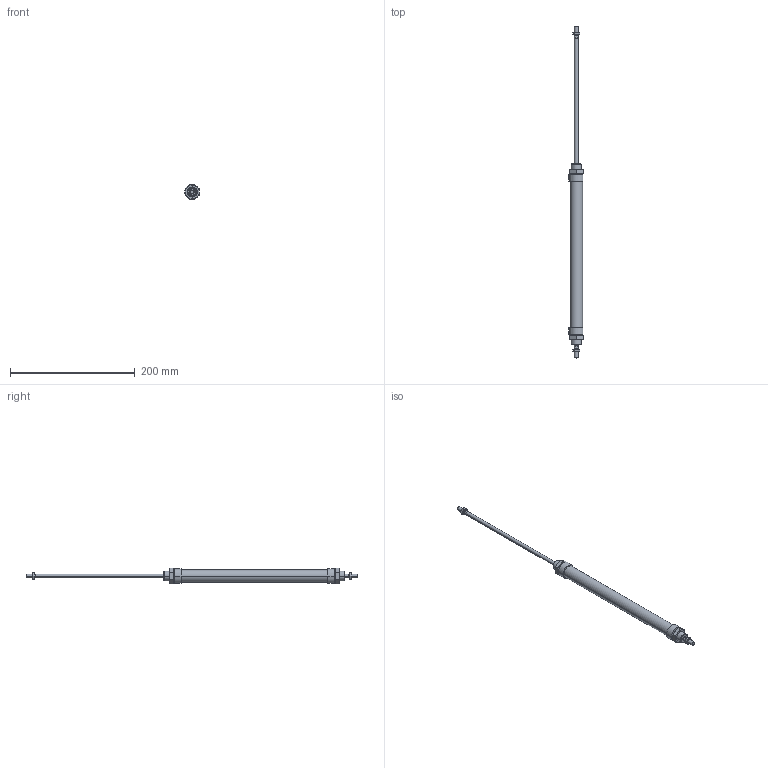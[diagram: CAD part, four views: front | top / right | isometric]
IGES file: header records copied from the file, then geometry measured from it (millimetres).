
Global section: file name: No Iges File Name specified; native system: AutoDesk Inventor R6.0; preprocessor: AutoDesk Inventor Iges Exporter R6.0; author: No Author specified; organization: No Organization specified; date: 20030403.072221; units: millimetre
Bounding box: 23 x 532 x 25.4 mm (x, y, z)
Volume: 99938.1 mm3; surface area: 37707.5 mm2
Topology: 6 solids, 6 shells, 180 faces, 388 edges, 228 vertices
Faces by surface type: cone 68, plane 56, bspline 30, cylinder 20, revolution 6
